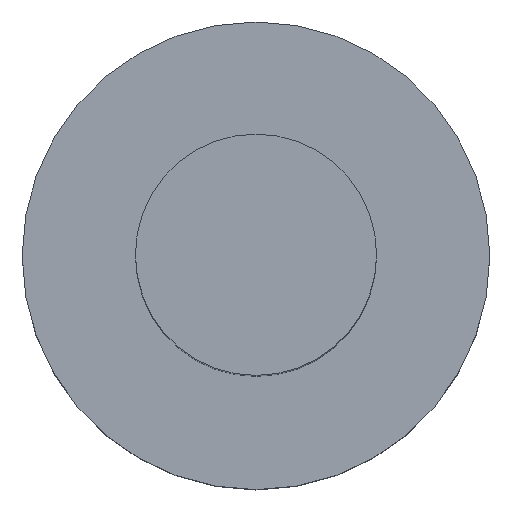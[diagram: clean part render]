
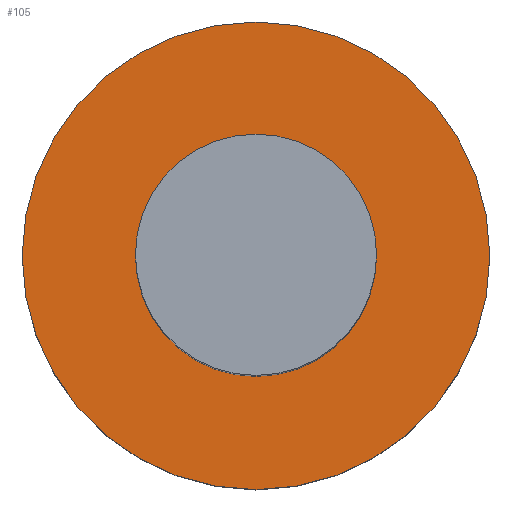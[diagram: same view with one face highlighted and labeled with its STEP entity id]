
A CAD part, top view. The second image highlights one B-rep face of the part: STEP entity #105.
In plain terms, the highlighted planar face has unit normal (0, 0, 1).
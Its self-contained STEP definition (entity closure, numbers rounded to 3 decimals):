
#21 = EDGE_CURVE('',#22,#22,#24,.T.);
#22 = VERTEX_POINT('',#23);
#23 = CARTESIAN_POINT('',(-6.7,-30.5,1.66));
#24 = SURFACE_CURVE('',#25,(#30,#42),.PCURVE_S1.);
#25 = CIRCLE('',#26,1.9);
#26 = AXIS2_PLACEMENT_3D('',#27,#28,#29);
#27 = CARTESIAN_POINT('',(-8.6,-30.5,1.66));
#28 = DIRECTION('',(0.,0.,1.));
#29 = DIRECTION('',(1.,0.,-0.));
#30 = PCURVE('',#31,#36);
#31 = CYLINDRICAL_SURFACE('',#32,1.9);
#32 = AXIS2_PLACEMENT_3D('',#33,#34,#35);
#33 = CARTESIAN_POINT('',(-8.6,-30.5,0.16));
#34 = DIRECTION('',(0.,0.,1.));
#35 = DIRECTION('',(1.,0.,-0.));
#36 = DEFINITIONAL_REPRESENTATION('',(#37),#41);
#37 = LINE('',#38,#39);
#38 = CARTESIAN_POINT('',(0.,1.5));
#39 = VECTOR('',#40,1.);
#40 = DIRECTION('',(1.,0.));
#41 = ( GEOMETRIC_REPRESENTATION_CONTEXT(2) 
PARAMETRIC_REPRESENTATION_CONTEXT() REPRESENTATION_CONTEXT('2D SPACE',''
  ) );
#42 = PCURVE('',#43,#48);
#43 = PLANE('',#44);
#44 = AXIS2_PLACEMENT_3D('',#45,#46,#47);
#45 = CARTESIAN_POINT('',(-8.6,-30.5,1.66));
#46 = DIRECTION('',(0.,0.,1.));
#47 = DIRECTION('',(1.,0.,-0.));
#48 = DEFINITIONAL_REPRESENTATION('',(#49),#53);
#49 = CIRCLE('',#50,1.9);
#50 = AXIS2_PLACEMENT_2D('',#51,#52);
#51 = CARTESIAN_POINT('',(0.,0.));
#52 = DIRECTION('',(1.,0.));
#53 = ( GEOMETRIC_REPRESENTATION_CONTEXT(2) 
PARAMETRIC_REPRESENTATION_CONTEXT() REPRESENTATION_CONTEXT('2D SPACE',''
  ) );
#105 = ADVANCED_FACE('',(#106,#109),#43,.T.);
#106 = FACE_BOUND('',#107,.T.);
#107 = EDGE_LOOP('',(#108));
#108 = ORIENTED_EDGE('',*,*,#21,.T.);
#109 = FACE_BOUND('',#110,.T.);
#110 = EDGE_LOOP('',(#111));
#111 = ORIENTED_EDGE('',*,*,#112,.F.);
#112 = EDGE_CURVE('',#113,#113,#115,.T.);
#113 = VERTEX_POINT('',#114);
#114 = CARTESIAN_POINT('',(-7.62,-30.5,1.66));
#115 = SURFACE_CURVE('',#116,(#121,#128),.PCURVE_S1.);
#116 = CIRCLE('',#117,0.98);
#117 = AXIS2_PLACEMENT_3D('',#118,#119,#120);
#118 = CARTESIAN_POINT('',(-8.6,-30.5,1.66));
#119 = DIRECTION('',(0.,0.,1.));
#120 = DIRECTION('',(1.,0.,-0.));
#121 = PCURVE('',#43,#122);
#122 = DEFINITIONAL_REPRESENTATION('',(#123),#127);
#123 = CIRCLE('',#124,0.98);
#124 = AXIS2_PLACEMENT_2D('',#125,#126);
#125 = CARTESIAN_POINT('',(0.,0.));
#126 = DIRECTION('',(1.,0.));
#127 = ( GEOMETRIC_REPRESENTATION_CONTEXT(2) 
PARAMETRIC_REPRESENTATION_CONTEXT() REPRESENTATION_CONTEXT('2D SPACE',''
  ) );
#128 = PCURVE('',#129,#134);
#129 = CYLINDRICAL_SURFACE('',#130,0.98);
#130 = AXIS2_PLACEMENT_3D('',#131,#132,#133);
#131 = CARTESIAN_POINT('',(-8.6,-30.5,1.66));
#132 = DIRECTION('',(0.,0.,1.));
#133 = DIRECTION('',(1.,0.,-0.));
#134 = DEFINITIONAL_REPRESENTATION('',(#135),#139);
#135 = LINE('',#136,#137);
#136 = CARTESIAN_POINT('',(0.,0.));
#137 = VECTOR('',#138,1.);
#138 = DIRECTION('',(1.,0.));
#139 = ( GEOMETRIC_REPRESENTATION_CONTEXT(2) 
PARAMETRIC_REPRESENTATION_CONTEXT() REPRESENTATION_CONTEXT('2D SPACE',''
  ) );
